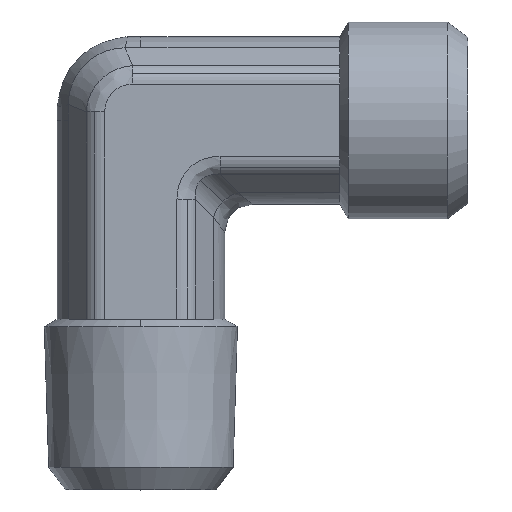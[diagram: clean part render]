
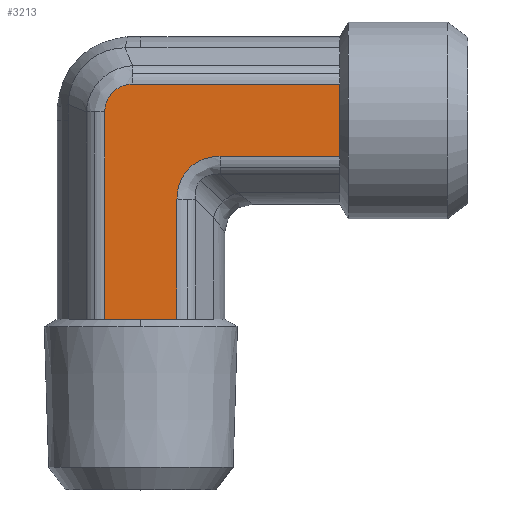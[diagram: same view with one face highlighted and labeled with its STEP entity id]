
A CAD part, top view. The second image highlights one B-rep face of the part: STEP entity #3213.
In plain terms, the highlighted planar face has unit normal (0, 0, 1) as drawn and (0, -1, 0) by its records, which use the part's own axes.
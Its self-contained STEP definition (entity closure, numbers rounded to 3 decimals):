
#361=CARTESIAN_POINT('',(1.071,-5.9,2.54));
#362=VERTEX_POINT('',#361);
#370=CARTESIAN_POINT('',(9.5,-5.9,2.54));
#371=VERTEX_POINT('',#370);
#372=CARTESIAN_POINT('',(1.071,-5.9,2.54));
#373=DIRECTION('',(1.0,0.0,0.0));
#374=VECTOR('',#373,8.429);
#375=LINE('',#372,#374);
#376=EDGE_CURVE('',#362,#371,#375,.T.);
#485=CARTESIAN_POINT('',(-7.04,-5.9,-0.585));
#486=VERTEX_POINT('',#485);
#494=CARTESIAN_POINT('',(-7.04,-5.9,14.0));
#495=VERTEX_POINT('',#494);
#496=CARTESIAN_POINT('',(-7.04,-5.9,-0.585));
#497=DIRECTION('',(0.0,0.0,1.0));
#498=VECTOR('',#497,14.585);
#499=LINE('',#496,#498);
#500=EDGE_CURVE('',#486,#495,#499,.T.);
#753=CARTESIAN_POINT('',(9.5,-5.9,0.));
#754=VERTEX_POINT('',#753);
#2111=CARTESIAN_POINT('',(-4.5,-5.9,14.0));
#2112=VERTEX_POINT('',#2111);
#2231=CARTESIAN_POINT('',(-4.5,-5.9,14.0));
#2232=DIRECTION('',(-1.0,0.0,0.0));
#2233=VECTOR('',#2232,2.54);
#2234=LINE('',#2231,#2233);
#2235=EDGE_CURVE('',#2112,#495,#2234,.T.);
#2308=CARTESIAN_POINT('',(-1.96,-5.9,14.0));
#2309=VERTEX_POINT('',#2308);
#2310=CARTESIAN_POINT('',(-1.96,-5.9,14.0));
#2311=DIRECTION('',(-1.0,0.0,0.0));
#2312=VECTOR('',#2311,2.54);
#2313=LINE('',#2310,#2312);
#2314=EDGE_CURVE('',#2309,#2112,#2313,.T.);
#2406=CARTESIAN_POINT('',(9.5,-5.9,-2.54));
#2407=VERTEX_POINT('',#2406);
#2408=CARTESIAN_POINT('',(9.5,-5.9,-2.54));
#2409=DIRECTION('',(0.0,0.0,1.0));
#2410=VECTOR('',#2409,2.54);
#2411=LINE('',#2408,#2410);
#2412=EDGE_CURVE('',#2407,#754,#2411,.T.);
#2453=CARTESIAN_POINT('',(9.5,-5.9,0.));
#2454=DIRECTION('',(0.0,0.0,1.0));
#2455=VECTOR('',#2454,2.54);
#2456=LINE('',#2453,#2455);
#2457=EDGE_CURVE('',#754,#371,#2456,.T.);
#2897=CARTESIAN_POINT('',(-5.085,-5.9,-2.54));
#2898=VERTEX_POINT('',#2897);
#2906=CARTESIAN_POINT('',(-7.04,-5.9,-0.585));
#2907=CARTESIAN_POINT('',(-7.04,-5.9,-0.712));
#2908=CARTESIAN_POINT('',(-7.027,-5.9,-0.841));
#2909=CARTESIAN_POINT('',(-6.961,-5.9,-1.168));
#2910=CARTESIAN_POINT('',(-6.889,-5.9,-1.36));
#2911=CARTESIAN_POINT('',(-6.626,-5.9,-1.825));
#2912=CARTESIAN_POINT('',(-6.394,-5.9,-2.068));
#2913=CARTESIAN_POINT('',(-5.806,-5.9,-2.436));
#2914=CARTESIAN_POINT('',(-5.446,-5.9,-2.54));
#2915=CARTESIAN_POINT('',(-5.085,-5.9,-2.54));
#2916=B_SPLINE_CURVE_WITH_KNOTS('',3,(#2906,#2907,#2908,#2909,#2910,#2911,#2912,#2913,#2914,#2915),.UNSPECIFIED.,.F.,.U.,(4,2,2,2,4),(-3.052,-2.67,-2.06,-1.083,0.0),.UNSPECIFIED.);
#2917=EDGE_CURVE('',#2898,#486,#2916,.F.);
#2944=CARTESIAN_POINT('',(9.5,-5.9,-2.54));
#2945=DIRECTION('',(-1.0,0.0,0.0));
#2946=VECTOR('',#2945,14.585);
#2947=LINE('',#2944,#2946);
#2948=EDGE_CURVE('',#2407,#2898,#2947,.T.);
#3080=CARTESIAN_POINT('',(-1.96,-5.9,5.571));
#3081=VERTEX_POINT('',#3080);
#3082=CARTESIAN_POINT('',(-1.96,-5.9,14.0));
#3083=DIRECTION('',(0.0,0.0,-1.0));
#3084=VECTOR('',#3083,8.429);
#3085=LINE('',#3082,#3084);
#3086=EDGE_CURVE('',#2309,#3081,#3085,.T.);
#3169=CARTESIAN_POINT('',(2.082,-5.9,6.582));
#3170=DIRECTION('',(0.,-1.0,0.));
#3171=DIRECTION('',(-0.707,0.,-0.707));
#3172=AXIS2_PLACEMENT_3D('',#3169,#3170,#3171);
#3173=ELLIPSE('',#3172,4.518,3.5);
#3174=EDGE_CURVE('',#3081,#362,#3173,.T.);
#3196=CARTESIAN_POINT('',(-4.5,-5.9,-3.175));
#3197=DIRECTION('',(0.0,-1.0,0.0));
#3198=DIRECTION('',(0.0,0.0,-1.0));
#3199=AXIS2_PLACEMENT_3D('',#3196,#3197,#3198);
#3200=PLANE('',#3199);
#3201=ORIENTED_EDGE('',*,*,#2948,.F.);
#3202=ORIENTED_EDGE('',*,*,#2412,.T.);
#3203=ORIENTED_EDGE('',*,*,#2457,.T.);
#3204=ORIENTED_EDGE('',*,*,#376,.F.);
#3205=ORIENTED_EDGE('',*,*,#3174,.F.);
#3206=ORIENTED_EDGE('',*,*,#3086,.F.);
#3207=ORIENTED_EDGE('',*,*,#2314,.T.);
#3208=ORIENTED_EDGE('',*,*,#2235,.T.);
#3209=ORIENTED_EDGE('',*,*,#500,.F.);
#3210=ORIENTED_EDGE('',*,*,#2917,.F.);
#3211=EDGE_LOOP('',(#3201,#3202,#3203,#3204,#3205,#3206,#3207,#3208,#3209,#3210));
#3212=FACE_OUTER_BOUND('',#3211,.T.);
#3213=ADVANCED_FACE('',(#3212),#3200,.T.);
